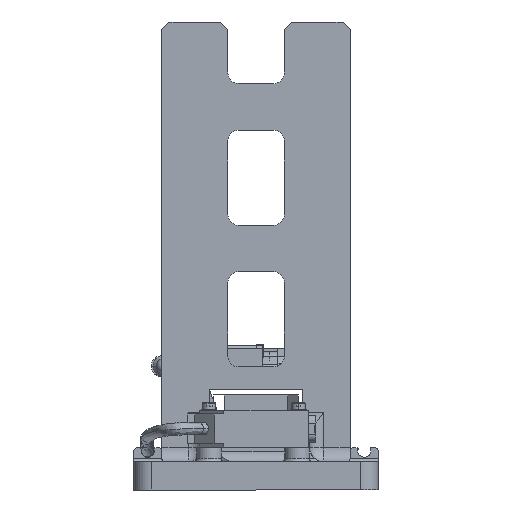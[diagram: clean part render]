
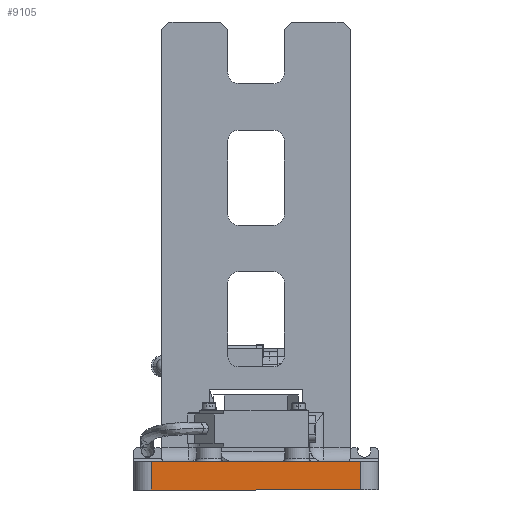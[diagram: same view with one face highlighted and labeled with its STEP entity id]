
A CAD part, left-side view. The second image highlights one B-rep face of the part: STEP entity #9105.
In plain terms, the highlighted planar face has unit normal (-1, 0, 0).
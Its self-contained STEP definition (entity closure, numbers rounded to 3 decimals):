
#299 = CARTESIAN_POINT ( 'NONE',  ( -198., 0., 6. ) ) ;
#1339 = DIRECTION ( 'NONE',  ( 0., 0., 1. ) ) ;
#1388 = AXIS2_PLACEMENT_3D ( 'NONE', #299, #11819, #32273 ) ;
#4896 = CARTESIAN_POINT ( 'NONE',  ( -198., -29.75, 4. ) ) ;
#5201 = LINE ( 'NONE', #36448, #38164 ) ;
#5305 = CARTESIAN_POINT ( 'NONE',  ( -198., 29.75, 12. ) ) ;
#8443 = VERTEX_POINT ( 'NONE', #22538 ) ;
#8550 = DIRECTION ( 'NONE',  ( 0., 1., 0. ) ) ;
#9105 = ADVANCED_FACE ( 'NONE', ( #10765 ), #26785, .T. ) ;
#9723 = LINE ( 'NONE', #13701, #17175 ) ;
#10765 = FACE_OUTER_BOUND ( 'NONE', #25480, .T. ) ;
#11819 = DIRECTION ( 'NONE',  ( -1., 0., 0. ) ) ;
#12285 = EDGE_CURVE ( 'NONE', #40808, #8443, #12757, .T. ) ;
#12757 = LINE ( 'NONE', #35846, #45114 ) ;
#13701 = CARTESIAN_POINT ( 'NONE',  ( -198., 29.75, 6. ) ) ;
#14120 = VERTEX_POINT ( 'NONE', #51428 ) ;
#16984 = DIRECTION ( 'NONE',  ( 0., -1., 0. ) ) ;
#17175 = VECTOR ( 'NONE', #33379, 1000. ) ;
#17878 = EDGE_CURVE ( 'NONE', #27940, #14120, #28785, .T. ) ;
#20998 = ORIENTED_EDGE ( 'NONE', *, *, #28009, .T. ) ;
#22538 = CARTESIAN_POINT ( 'NONE',  ( -198., -29.75, 12. ) ) ;
#25283 = EDGE_CURVE ( 'NONE', #27940, #8443, #5201, .T. ) ;
#25480 = EDGE_LOOP ( 'NONE', ( #49440, #20998, #45249, #45970 ) ) ;
#26785 = PLANE ( 'NONE',  #1388 ) ;
#27940 = VERTEX_POINT ( 'NONE', #30529 ) ;
#28009 = EDGE_CURVE ( 'NONE', #40808, #14120, #9723, .T. ) ;
#28785 = LINE ( 'NONE', #4896, #51156 ) ;
#30529 = CARTESIAN_POINT ( 'NONE',  ( -198., -29.75, 4. ) ) ;
#32273 = DIRECTION ( 'NONE',  ( 0., 0., 1. ) ) ;
#33379 = DIRECTION ( 'NONE',  ( 0., 0., -1. ) ) ;
#35846 = CARTESIAN_POINT ( 'NONE',  ( -198., 0., 12. ) ) ;
#36448 = CARTESIAN_POINT ( 'NONE',  ( -198., -29.75, 6. ) ) ;
#38164 = VECTOR ( 'NONE', #1339, 1000. ) ;
#40808 = VERTEX_POINT ( 'NONE', #5305 ) ;
#45114 = VECTOR ( 'NONE', #16984, 1000. ) ;
#45249 = ORIENTED_EDGE ( 'NONE', *, *, #17878, .F. ) ;
#45970 = ORIENTED_EDGE ( 'NONE', *, *, #25283, .T. ) ;
#49440 = ORIENTED_EDGE ( 'NONE', *, *, #12285, .F. ) ;
#51156 = VECTOR ( 'NONE', #8550, 1000. ) ;
#51428 = CARTESIAN_POINT ( 'NONE',  ( -198., 29.75, 4. ) ) ;
